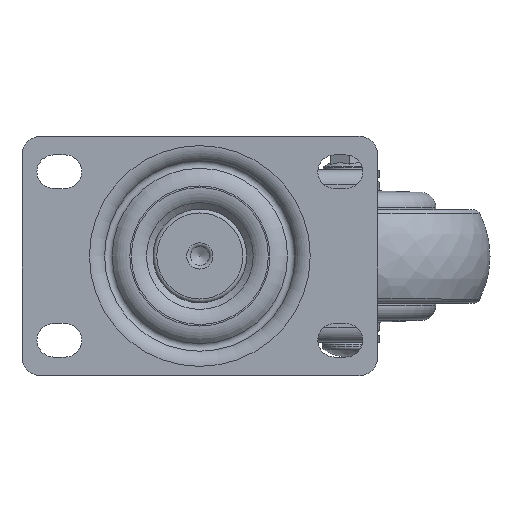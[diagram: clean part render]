
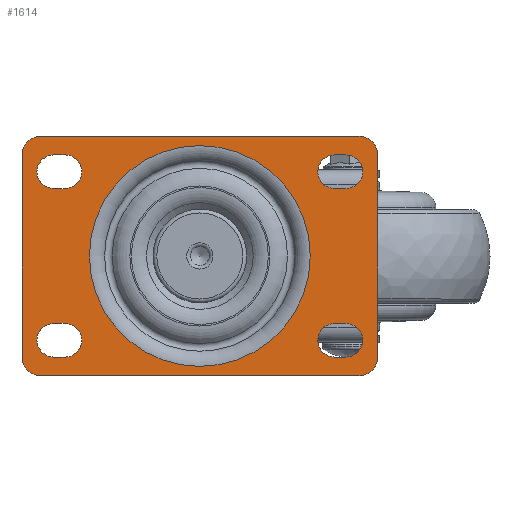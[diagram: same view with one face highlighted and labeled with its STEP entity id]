
A CAD part, top view. The second image highlights one B-rep face of the part: STEP entity #1614.
In plain terms, the highlighted planar face has unit normal (0, 0, 1).
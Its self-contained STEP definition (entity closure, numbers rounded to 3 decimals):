
#580=CARTESIAN_POINT('',(20.988,0.,55.1));
#581=VERTEX_POINT('',#580);
#582=CARTESIAN_POINT('',(-8.5,0.0,55.1));
#583=DIRECTION('',(0.0,0.0,-1.0));
#584=DIRECTION('',(-1.0,0.0,0.0));
#585=AXIS2_PLACEMENT_3D('',#582,#583,#584);
#586=CIRCLE('',#585,29.488);
#587=EDGE_CURVE('',#581,#581,#586,.T.);
#796=CARTESIAN_POINT('',(34.,32.0,55.1));
#797=VERTEX_POINT('',#796);
#804=CARTESIAN_POINT('',(39.,27.0,55.1));
#805=VERTEX_POINT('',#804);
#806=CARTESIAN_POINT('',(34.,27.0,55.1));
#807=DIRECTION('',(0.0,0.0,-1.0));
#808=DIRECTION('',(1.0,0.0,0.0));
#809=AXIS2_PLACEMENT_3D('',#806,#807,#808);
#810=CIRCLE('',#809,5.0);
#811=EDGE_CURVE('',#797,#805,#810,.T.);
#835=CARTESIAN_POINT('',(-51.,32.,55.1));
#836=VERTEX_POINT('',#835);
#843=CARTESIAN_POINT('',(-51.,32.,55.1));
#844=DIRECTION('',(1.0,0.0,0.0));
#845=VECTOR('',#844,85.);
#846=LINE('',#843,#845);
#847=EDGE_CURVE('',#836,#797,#846,.T.);
#867=CARTESIAN_POINT('',(-56.,27.,55.1));
#868=VERTEX_POINT('',#867);
#875=CARTESIAN_POINT('',(-51.,27.,55.1));
#876=DIRECTION('',(0.0,0.0,-1.0));
#877=DIRECTION('',(1.0,0.0,0.0));
#878=AXIS2_PLACEMENT_3D('',#875,#876,#877);
#879=CIRCLE('',#878,5.0);
#880=EDGE_CURVE('',#868,#836,#879,.T.);
#899=CARTESIAN_POINT('',(-56.,-27.,55.1));
#900=VERTEX_POINT('',#899);
#907=CARTESIAN_POINT('',(-56.,-27.,55.1));
#908=DIRECTION('',(0.0,1.0,0.0));
#909=VECTOR('',#908,54.);
#910=LINE('',#907,#909);
#911=EDGE_CURVE('',#900,#868,#910,.T.);
#931=CARTESIAN_POINT('',(-51.,-32.,55.1));
#932=VERTEX_POINT('',#931);
#939=CARTESIAN_POINT('',(-51.,-27.,55.1));
#940=DIRECTION('',(0.0,0.0,-1.0));
#941=DIRECTION('',(1.0,0.0,0.0));
#942=AXIS2_PLACEMENT_3D('',#939,#940,#941);
#943=CIRCLE('',#942,5.0);
#944=EDGE_CURVE('',#932,#900,#943,.T.);
#963=CARTESIAN_POINT('',(34.,-32.0,55.1));
#964=VERTEX_POINT('',#963);
#971=CARTESIAN_POINT('',(34.,-32.0,55.1));
#972=DIRECTION('',(-1.0,0.0,0.0));
#973=VECTOR('',#972,85.0);
#974=LINE('',#971,#973);
#975=EDGE_CURVE('',#964,#932,#974,.T.);
#995=CARTESIAN_POINT('',(39.,-27.0,55.1));
#996=VERTEX_POINT('',#995);
#1003=CARTESIAN_POINT('',(34.,-27.0,55.1));
#1004=DIRECTION('',(0.0,0.0,-1.0));
#1005=DIRECTION('',(1.0,0.0,0.0));
#1006=AXIS2_PLACEMENT_3D('',#1003,#1004,#1005);
#1007=CIRCLE('',#1006,5.0);
#1008=EDGE_CURVE('',#996,#964,#1007,.T.);
#1026=CARTESIAN_POINT('',(39.,27.0,55.1));
#1027=DIRECTION('',(0.0,-1.0,0.0));
#1028=VECTOR('',#1027,54.0);
#1029=LINE('',#1026,#1028);
#1030=EDGE_CURVE('',#805,#996,#1029,.T.);
#1052=CARTESIAN_POINT('',(-44.5,18.0,55.1));
#1053=VERTEX_POINT('',#1052);
#1060=CARTESIAN_POINT('',(-44.5,27.0,55.1));
#1061=VERTEX_POINT('',#1060);
#1062=CARTESIAN_POINT('',(-44.5,22.5,55.1));
#1063=DIRECTION('',(0.0,0.0,-1.0));
#1064=DIRECTION('',(1.0,0.0,0.0));
#1065=AXIS2_PLACEMENT_3D('',#1062,#1063,#1064);
#1066=CIRCLE('',#1065,4.5);
#1067=EDGE_CURVE('',#1061,#1053,#1066,.T.);
#1091=CARTESIAN_POINT('',(-47.5,18.0,55.1));
#1092=VERTEX_POINT('',#1091);
#1099=CARTESIAN_POINT('',(-44.5,18.0,55.1));
#1100=DIRECTION('',(-1.0,0.0,0.0));
#1101=VECTOR('',#1100,3.0);
#1102=LINE('',#1099,#1101);
#1103=EDGE_CURVE('',#1053,#1092,#1102,.T.);
#1123=CARTESIAN_POINT('',(-47.5,27.0,55.1));
#1124=VERTEX_POINT('',#1123);
#1131=CARTESIAN_POINT('',(-47.5,22.5,55.1));
#1132=DIRECTION('',(0.0,0.0,-1.0));
#1133=DIRECTION('',(1.0,0.0,0.0));
#1134=AXIS2_PLACEMENT_3D('',#1131,#1132,#1133);
#1135=CIRCLE('',#1134,4.5);
#1136=EDGE_CURVE('',#1092,#1124,#1135,.T.);
#1154=CARTESIAN_POINT('',(-47.5,27.0,55.1));
#1155=DIRECTION('',(1.0,0.0,0.0));
#1156=VECTOR('',#1155,3.0);
#1157=LINE('',#1154,#1156);
#1158=EDGE_CURVE('',#1124,#1061,#1157,.T.);
#1180=CARTESIAN_POINT('',(27.5,27.0,55.1));
#1181=VERTEX_POINT('',#1180);
#1188=CARTESIAN_POINT('',(27.5,18.0,55.1));
#1189=VERTEX_POINT('',#1188);
#1190=CARTESIAN_POINT('',(27.5,22.5,55.1));
#1191=DIRECTION('',(0.0,0.0,-1.0));
#1192=DIRECTION('',(1.0,0.0,0.0));
#1193=AXIS2_PLACEMENT_3D('',#1190,#1191,#1192);
#1194=CIRCLE('',#1193,4.5);
#1195=EDGE_CURVE('',#1189,#1181,#1194,.T.);
#1219=CARTESIAN_POINT('',(30.5,27.0,55.1));
#1220=VERTEX_POINT('',#1219);
#1227=CARTESIAN_POINT('',(27.5,27.0,55.1));
#1228=DIRECTION('',(1.0,0.0,0.0));
#1229=VECTOR('',#1228,3.);
#1230=LINE('',#1227,#1229);
#1231=EDGE_CURVE('',#1181,#1220,#1230,.T.);
#1251=CARTESIAN_POINT('',(30.5,18.0,55.1));
#1252=VERTEX_POINT('',#1251);
#1259=CARTESIAN_POINT('',(30.5,22.5,55.1));
#1260=DIRECTION('',(0.0,0.0,-1.0));
#1261=DIRECTION('',(1.0,0.0,0.0));
#1262=AXIS2_PLACEMENT_3D('',#1259,#1260,#1261);
#1263=CIRCLE('',#1262,4.5);
#1264=EDGE_CURVE('',#1220,#1252,#1263,.T.);
#1282=CARTESIAN_POINT('',(30.5,18.0,55.1));
#1283=DIRECTION('',(-1.0,0.0,0.0));
#1284=VECTOR('',#1283,3.0);
#1285=LINE('',#1282,#1284);
#1286=EDGE_CURVE('',#1252,#1189,#1285,.T.);
#1308=CARTESIAN_POINT('',(-44.5,-27.0,55.1));
#1309=VERTEX_POINT('',#1308);
#1316=CARTESIAN_POINT('',(-44.5,-18.,55.1));
#1317=VERTEX_POINT('',#1316);
#1318=CARTESIAN_POINT('',(-44.5,-22.5,55.1));
#1319=DIRECTION('',(0.0,0.0,-1.0));
#1320=DIRECTION('',(1.0,0.0,0.0));
#1321=AXIS2_PLACEMENT_3D('',#1318,#1319,#1320);
#1322=CIRCLE('',#1321,4.5);
#1323=EDGE_CURVE('',#1317,#1309,#1322,.T.);
#1347=CARTESIAN_POINT('',(-47.5,-27.0,55.1));
#1348=VERTEX_POINT('',#1347);
#1355=CARTESIAN_POINT('',(-44.5,-27.0,55.1));
#1356=DIRECTION('',(-1.0,0.0,0.0));
#1357=VECTOR('',#1356,3.0);
#1358=LINE('',#1355,#1357);
#1359=EDGE_CURVE('',#1309,#1348,#1358,.T.);
#1379=CARTESIAN_POINT('',(-47.5,-18.,55.1));
#1380=VERTEX_POINT('',#1379);
#1387=CARTESIAN_POINT('',(-47.5,-22.5,55.1));
#1388=DIRECTION('',(0.0,0.0,-1.0));
#1389=DIRECTION('',(1.0,0.0,0.0));
#1390=AXIS2_PLACEMENT_3D('',#1387,#1388,#1389);
#1391=CIRCLE('',#1390,4.5);
#1392=EDGE_CURVE('',#1348,#1380,#1391,.T.);
#1410=CARTESIAN_POINT('',(-47.5,-18.,55.1));
#1411=DIRECTION('',(1.0,0.0,0.0));
#1412=VECTOR('',#1411,3.0);
#1413=LINE('',#1410,#1412);
#1414=EDGE_CURVE('',#1380,#1317,#1413,.T.);
#1436=CARTESIAN_POINT('',(27.5,-18.,55.1));
#1437=VERTEX_POINT('',#1436);
#1444=CARTESIAN_POINT('',(27.5,-27.0,55.1));
#1445=VERTEX_POINT('',#1444);
#1446=CARTESIAN_POINT('',(27.5,-22.5,55.1));
#1447=DIRECTION('',(0.0,0.0,-1.0));
#1448=DIRECTION('',(1.0,0.0,0.0));
#1449=AXIS2_PLACEMENT_3D('',#1446,#1447,#1448);
#1450=CIRCLE('',#1449,4.5);
#1451=EDGE_CURVE('',#1445,#1437,#1450,.T.);
#1475=CARTESIAN_POINT('',(30.5,-18.,55.1));
#1476=VERTEX_POINT('',#1475);
#1483=CARTESIAN_POINT('',(27.5,-18.,55.1));
#1484=DIRECTION('',(1.0,0.0,0.0));
#1485=VECTOR('',#1484,3.);
#1486=LINE('',#1483,#1485);
#1487=EDGE_CURVE('',#1437,#1476,#1486,.T.);
#1507=CARTESIAN_POINT('',(30.5,-27.0,55.1));
#1508=VERTEX_POINT('',#1507);
#1515=CARTESIAN_POINT('',(30.5,-22.5,55.1));
#1516=DIRECTION('',(0.0,0.0,-1.0));
#1517=DIRECTION('',(1.0,0.0,0.0));
#1518=AXIS2_PLACEMENT_3D('',#1515,#1516,#1517);
#1519=CIRCLE('',#1518,4.5);
#1520=EDGE_CURVE('',#1476,#1508,#1519,.T.);
#1538=CARTESIAN_POINT('',(30.5,-27.0,55.1));
#1539=DIRECTION('',(-1.0,0.0,0.0));
#1540=VECTOR('',#1539,3.);
#1541=LINE('',#1538,#1540);
#1542=EDGE_CURVE('',#1508,#1445,#1541,.T.);
#1572=CARTESIAN_POINT('',(-38.244,0.0,55.1));
#1573=DIRECTION('',(0.0,0.0,1.0));
#1574=DIRECTION('',(1.0,0.0,0.0));
#1575=AXIS2_PLACEMENT_3D('',#1572,#1573,#1574);
#1576=PLANE('',#1575);
#1577=ORIENTED_EDGE('',*,*,#1030,.F.);
#1578=ORIENTED_EDGE('',*,*,#811,.F.);
#1579=ORIENTED_EDGE('',*,*,#847,.F.);
#1580=ORIENTED_EDGE('',*,*,#880,.F.);
#1581=ORIENTED_EDGE('',*,*,#911,.F.);
#1582=ORIENTED_EDGE('',*,*,#944,.F.);
#1583=ORIENTED_EDGE('',*,*,#975,.F.);
#1584=ORIENTED_EDGE('',*,*,#1008,.F.);
#1585=EDGE_LOOP('',(#1577,#1578,#1579,#1580,#1581,#1582,#1583,#1584));
#1586=FACE_OUTER_BOUND('',#1585,.T.);
#1587=ORIENTED_EDGE('',*,*,#1158,.T.);
#1588=ORIENTED_EDGE('',*,*,#1067,.T.);
#1589=ORIENTED_EDGE('',*,*,#1103,.T.);
#1590=ORIENTED_EDGE('',*,*,#1136,.T.);
#1591=EDGE_LOOP('',(#1587,#1588,#1589,#1590));
#1592=FACE_BOUND('',#1591,.T.);
#1593=ORIENTED_EDGE('',*,*,#1286,.T.);
#1594=ORIENTED_EDGE('',*,*,#1195,.T.);
#1595=ORIENTED_EDGE('',*,*,#1231,.T.);
#1596=ORIENTED_EDGE('',*,*,#1264,.T.);
#1597=EDGE_LOOP('',(#1593,#1594,#1595,#1596));
#1598=FACE_BOUND('',#1597,.T.);
#1599=ORIENTED_EDGE('',*,*,#1414,.T.);
#1600=ORIENTED_EDGE('',*,*,#1323,.T.);
#1601=ORIENTED_EDGE('',*,*,#1359,.T.);
#1602=ORIENTED_EDGE('',*,*,#1392,.T.);
#1603=EDGE_LOOP('',(#1599,#1600,#1601,#1602));
#1604=FACE_BOUND('',#1603,.T.);
#1605=ORIENTED_EDGE('',*,*,#1542,.T.);
#1606=ORIENTED_EDGE('',*,*,#1451,.T.);
#1607=ORIENTED_EDGE('',*,*,#1487,.T.);
#1608=ORIENTED_EDGE('',*,*,#1520,.T.);
#1609=EDGE_LOOP('',(#1605,#1606,#1607,#1608));
#1610=FACE_BOUND('',#1609,.T.);
#1611=ORIENTED_EDGE('',*,*,#587,.T.);
#1612=EDGE_LOOP('',(#1611));
#1613=FACE_BOUND('',#1612,.T.);
#1614=ADVANCED_FACE('',(#1586,#1592,#1598,#1604,#1610,#1613),#1576,.T.);
